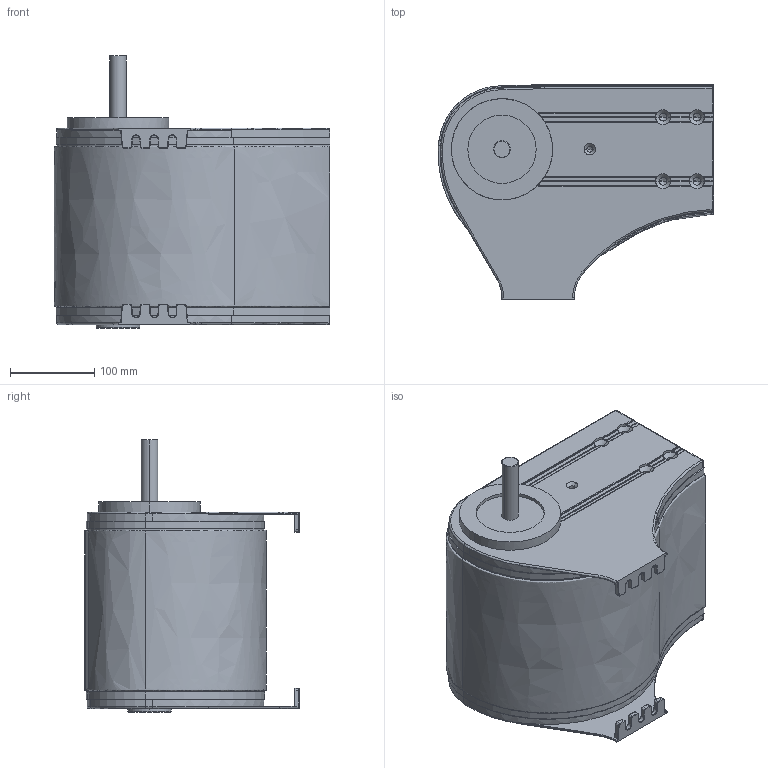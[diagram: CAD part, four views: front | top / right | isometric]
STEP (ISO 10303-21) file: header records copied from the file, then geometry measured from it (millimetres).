
FILE_DESCRIPTION (( 'STEP AP214' ), '1' );
FILE_NAME ('F2 750 MDG20.step', '2017-04-05T07:34:41', ( '' ), ( '' ), 'SwSTEP 2.0', 'SolidWorks 2015', '' );
FILE_SCHEMA (( 'AUTOMOTIVE_DESIGN' ));
Length unit declared in the file: millimetre
Products named in the file (1): F2 750 MDG20
Bounding box: 326.57 x 254.22 x 323.55 mm (x, y, z)
Volume: 13771621.1 mm3; surface area: 380468.5 mm2
Topology: 1 solids, 1 shells, 580 faces, 1484 edges, 887 vertices
Faces by surface type: cylinder 249, plane 152, torus 113, cone 42, bspline 24
Entity records: 19992 total; most frequent: CARTESIAN_POINT 5507, DIRECTION 2992, ORIENTED_EDGE 2920, EDGE_CURVE 1460, AXIS2_PLACEMENT_3D 1191, VERTEX_POINT 887, CIRCLE 634, VECTOR 610
